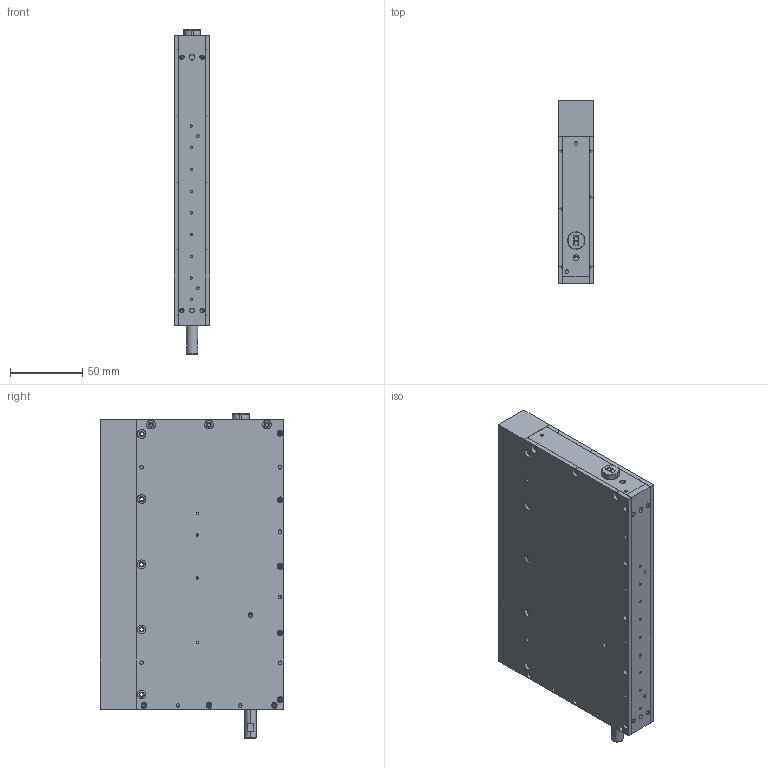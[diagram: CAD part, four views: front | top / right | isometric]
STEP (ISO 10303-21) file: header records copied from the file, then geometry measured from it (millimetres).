
FILE_DESCRIPTION (( 'STEP AP203' ), '1' );
FILE_NAME ('LBL25-050-3X-3_D.STEP', '2020-05-27T18:19:16', ( '' ), ( '' ), 'SwSTEP 2.0', 'SolidWorks 2018', '' );
FILE_SCHEMA (( 'CONFIG_CONTROL_DESIGN' ));
Length unit declared in the file: millimetre
Products named in the file (13): 210101-50_A; LBL25-050-3X-3_D; 902572-05-R_A; 22978-01; 140806-01_D; 110091-01_H; 902572-05-L_A; 902552-23_A; 140807-51_A; 230090-03_D; 140807-50_B; 902572-22_A; 230091-50_B
Assembly tree (12 placements, depth 3):
  LBL25-050-3X-3_D
    902572-05-L_A
      140807-50_B
    902572-05-R_A
      140807-51_A
    902552-23_A
      230090-03_D
      22978-01
    230091-50_B
    210101-50_A
    902572-22_A
      140806-01_D
    110091-01_H
Bounding box: 24.8 x 126.6 x 224.15 mm (x, y, z)
Volume: 242501.9 mm3; surface area: 147799.6 mm2
Topology: 8 solids, 8 shells, 659 faces, 1636 edges, 1004 vertices
Faces by surface type: cylinder 402, plane 129, cone 120, torus 8
Entity records: 21135 total; most frequent: DIRECTION 3772, CARTESIAN_POINT 3288, ORIENTED_EDGE 3128, EDGE_CURVE 1564, AXIS2_PLACEMENT_3D 1536, VERTEX_POINT 1004, EDGE_LOOP 946, CIRCLE 858
